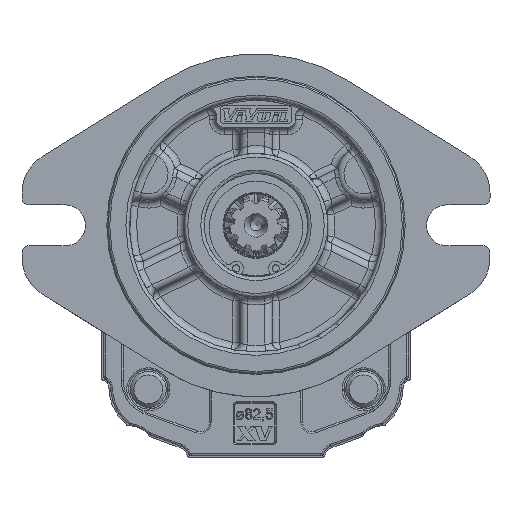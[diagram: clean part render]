
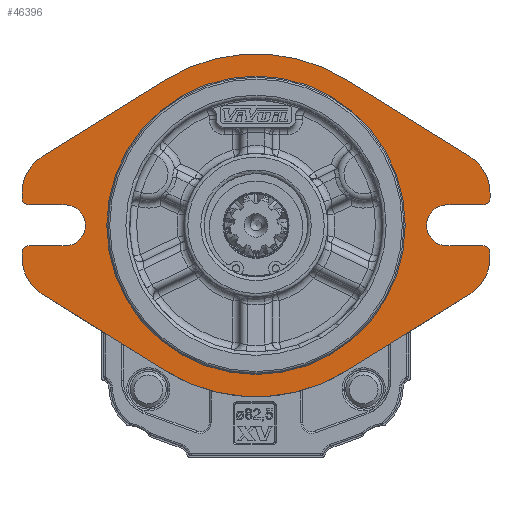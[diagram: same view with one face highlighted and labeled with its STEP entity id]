
A CAD part, front view. The second image highlights one B-rep face of the part: STEP entity #46396.
In plain terms, the highlighted planar face has unit normal (0, -1, 0).
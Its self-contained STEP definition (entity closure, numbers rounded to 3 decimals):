
#2736=LINE('',#65240,#4758);
#2740=LINE('',#65252,#4762);
#2741=LINE('',#65254,#4763);
#2748=LINE('',#65273,#4770);
#2749=LINE('',#65275,#4771);
#2756=LINE('',#65304,#4778);
#2757=LINE('',#65309,#4779);
#2758=LINE('',#65313,#4780);
#2759=LINE('',#65316,#4781);
#2760=LINE('',#65320,#4782);
#2761=LINE('',#65324,#4783);
#2762=LINE('',#65328,#4784);
#4758=VECTOR('',#53574,1000.);
#4762=VECTOR('',#53586,1000.);
#4763=VECTOR('',#53589,1000.);
#4770=VECTOR('',#53604,1000.);
#4771=VECTOR('',#53607,1000.);
#4778=VECTOR('',#53636,1000.);
#4779=VECTOR('',#53639,1000.);
#4780=VECTOR('',#53642,1000.);
#4781=VECTOR('',#53647,1000.);
#4782=VECTOR('',#53650,1000.);
#4783=VECTOR('',#53653,1000.);
#4784=VECTOR('',#53656,1000.);
#6328=PLANE('',#48875);
#9938=ORIENTED_EDGE('',*,*,#18859,.T.);
#9939=ORIENTED_EDGE('',*,*,#18860,.F.);
#9940=ORIENTED_EDGE('',*,*,#18861,.T.);
#9941=ORIENTED_EDGE('',*,*,#18862,.F.);
#9942=ORIENTED_EDGE('',*,*,#18863,.F.);
#9943=ORIENTED_EDGE('',*,*,#18864,.F.);
#9944=ORIENTED_EDGE('',*,*,#18780,.F.);
#9945=ORIENTED_EDGE('',*,*,#18829,.F.);
#9946=ORIENTED_EDGE('',*,*,#18832,.F.);
#9947=ORIENTED_EDGE('',*,*,#18835,.F.);
#9948=ORIENTED_EDGE('',*,*,#18865,.T.);
#9949=ORIENTED_EDGE('',*,*,#18836,.F.);
#9950=ORIENTED_EDGE('',*,*,#18842,.F.);
#9951=ORIENTED_EDGE('',*,*,#18845,.F.);
#9952=ORIENTED_EDGE('',*,*,#18866,.T.);
#9953=ORIENTED_EDGE('',*,*,#18846,.F.);
#9954=ORIENTED_EDGE('',*,*,#18858,.F.);
#9955=ORIENTED_EDGE('',*,*,#18867,.F.);
#9956=ORIENTED_EDGE('',*,*,#18868,.F.);
#9957=ORIENTED_EDGE('',*,*,#18869,.F.);
#9958=ORIENTED_EDGE('',*,*,#18870,.F.);
#9959=ORIENTED_EDGE('',*,*,#18871,.F.);
#9960=ORIENTED_EDGE('',*,*,#18872,.T.);
#9961=ORIENTED_EDGE('',*,*,#18873,.F.);
#9962=ORIENTED_EDGE('',*,*,#18874,.F.);
#18780=EDGE_CURVE('',#23387,#23388,#26053,.T.);
#18829=EDGE_CURVE('',#23430,#23387,#2736,.T.);
#18832=EDGE_CURVE('',#23432,#23430,#26081,.T.);
#18835=EDGE_CURVE('',#23434,#23432,#2740,.T.);
#18836=EDGE_CURVE('',#23435,#23436,#2741,.T.);
#18842=EDGE_CURVE('',#23440,#23435,#26083,.T.);
#18845=EDGE_CURVE('',#23442,#23440,#2748,.T.);
#18846=EDGE_CURVE('',#23443,#23444,#2749,.T.);
#18858=EDGE_CURVE('',#23452,#23443,#26089,.T.);
#18859=EDGE_CURVE('',#23453,#23453,#26090,.T.);
#18860=EDGE_CURVE('',#23454,#23455,#2756,.T.);
#18861=EDGE_CURVE('',#23454,#23456,#26091,.F.);
#18862=EDGE_CURVE('',#23457,#23456,#2757,.T.);
#18863=EDGE_CURVE('',#23458,#23457,#26092,.T.);
#18864=EDGE_CURVE('',#23388,#23458,#2758,.T.);
#18865=EDGE_CURVE('',#23434,#23436,#26093,.F.);
#18866=EDGE_CURVE('',#23442,#23444,#26094,.F.);
#18867=EDGE_CURVE('',#23459,#23452,#2759,.T.);
#18868=EDGE_CURVE('',#23460,#23459,#26095,.T.);
#18869=EDGE_CURVE('',#23461,#23460,#2760,.T.);
#18870=EDGE_CURVE('',#23462,#23461,#26096,.T.);
#18871=EDGE_CURVE('',#23463,#23462,#2761,.T.);
#18872=EDGE_CURVE('',#23463,#23464,#26097,.F.);
#18873=EDGE_CURVE('',#23465,#23464,#2762,.T.);
#18874=EDGE_CURVE('',#23455,#23465,#26098,.T.);
#23387=VERTEX_POINT('',#65140);
#23388=VERTEX_POINT('',#65142);
#23430=VERTEX_POINT('',#65239);
#23432=VERTEX_POINT('',#65245);
#23434=VERTEX_POINT('',#65251);
#23435=VERTEX_POINT('',#65255);
#23436=VERTEX_POINT('',#65256);
#23440=VERTEX_POINT('',#65266);
#23442=VERTEX_POINT('',#65272);
#23443=VERTEX_POINT('',#65276);
#23444=VERTEX_POINT('',#65277);
#23452=VERTEX_POINT('',#65299);
#23453=VERTEX_POINT('',#65303);
#23454=VERTEX_POINT('',#65305);
#23455=VERTEX_POINT('',#65306);
#23456=VERTEX_POINT('',#65308);
#23457=VERTEX_POINT('',#65310);
#23458=VERTEX_POINT('',#65312);
#23459=VERTEX_POINT('',#65317);
#23460=VERTEX_POINT('',#65319);
#23461=VERTEX_POINT('',#65321);
#23462=VERTEX_POINT('',#65323);
#23463=VERTEX_POINT('',#65325);
#23464=VERTEX_POINT('',#65327);
#23465=VERTEX_POINT('',#65329);
#26053=CIRCLE('',#48824,47.75);
#26081=CIRCLE('',#48858,12.);
#26083=CIRCLE('',#48863,5.7);
#26089=CIRCLE('',#48874,12.);
#26090=CIRCLE('',#48876,40.982);
#26091=CIRCLE('',#48877,2.);
#26092=CIRCLE('',#48878,12.);
#26093=CIRCLE('',#48879,2.);
#26094=CIRCLE('',#48880,2.);
#26095=CIRCLE('',#48881,47.75);
#26096=CIRCLE('',#48882,12.);
#26097=CIRCLE('',#48883,2.);
#26098=CIRCLE('',#48884,5.7);
#27801=EDGE_LOOP('',(#9938));
#27802=EDGE_LOOP('',(#9939,#9940,#9941,#9942,#9943,#9944,#9945,#9946,#9947,
#9948,#9949,#9950,#9951,#9952,#9953,#9954,#9955,#9956,#9957,#9958,#9959,
#9960,#9961,#9962));
#30095=FACE_BOUND('',#27801,.T.);
#30096=FACE_BOUND('',#27802,.T.);
#46396=ADVANCED_FACE('',(#30095,#30096),#6328,.F.);
#48824=AXIS2_PLACEMENT_3D('',#65141,#53490,#53491);
#48858=AXIS2_PLACEMENT_3D('',#65246,#53580,#53581);
#48863=AXIS2_PLACEMENT_3D('',#65267,#53598,#53599);
#48874=AXIS2_PLACEMENT_3D('',#65300,#53630,#53631);
#48875=AXIS2_PLACEMENT_3D('',#65301,#53632,#53633);
#48876=AXIS2_PLACEMENT_3D('',#65302,#53634,#53635);
#48877=AXIS2_PLACEMENT_3D('',#65307,#53637,#53638);
#48878=AXIS2_PLACEMENT_3D('',#65311,#53640,#53641);
#48879=AXIS2_PLACEMENT_3D('',#65314,#53643,#53644);
#48880=AXIS2_PLACEMENT_3D('',#65315,#53645,#53646);
#48881=AXIS2_PLACEMENT_3D('',#65318,#53648,#53649);
#48882=AXIS2_PLACEMENT_3D('',#65322,#53651,#53652);
#48883=AXIS2_PLACEMENT_3D('',#65326,#53654,#53655);
#48884=AXIS2_PLACEMENT_3D('',#65330,#53657,#53658);
#53490=DIRECTION('',(0.,1.,0.));
#53491=DIRECTION('',(-1.,0.,0.));
#53574=DIRECTION('',(-0.849,0.,-0.528));
#53580=DIRECTION('',(0.,1.,0.));
#53581=DIRECTION('',(-1.,0.,0.));
#53586=DIRECTION('',(0.,0.,-1.));
#53589=DIRECTION('',(1.,0.,0.));
#53598=DIRECTION('',(0.,-1.,0.));
#53599=DIRECTION('',(1.,0.,0.));
#53604=DIRECTION('',(-1.,0.,0.));
#53607=DIRECTION('',(0.,0.,-1.));
#53630=DIRECTION('',(0.,1.,0.));
#53631=DIRECTION('',(-1.,0.,0.));
#53632=DIRECTION('',(0.,1.,0.));
#53633=DIRECTION('',(0.,0.,-1.));
#53634=DIRECTION('',(0.,1.,0.));
#53635=DIRECTION('',(-1.,0.,0.));
#53636=DIRECTION('',(1.,0.,0.));
#53637=DIRECTION('',(0.,1.,0.));
#53638=DIRECTION('',(0.,0.,-1.));
#53639=DIRECTION('',(0.,0.,1.));
#53640=DIRECTION('',(0.,1.,0.));
#53641=DIRECTION('',(1.,0.,0.));
#53642=DIRECTION('',(-0.849,0.,0.528));
#53643=DIRECTION('',(0.,1.,0.));
#53644=DIRECTION('',(0.,0.,-1.));
#53645=DIRECTION('',(0.,1.,0.));
#53646=DIRECTION('',(0.,0.,-1.));
#53647=DIRECTION('',(0.849,0.,-0.528));
#53648=DIRECTION('',(0.,1.,0.));
#53649=DIRECTION('',(-1.,0.,0.));
#53650=DIRECTION('',(0.849,0.,0.528));
#53651=DIRECTION('',(0.,1.,0.));
#53652=DIRECTION('',(1.,0.,0.));
#53653=DIRECTION('',(0.,0.,1.));
#53654=DIRECTION('',(0.,1.,0.));
#53655=DIRECTION('',(0.,0.,-1.));
#53656=DIRECTION('',(-1.,0.,0.));
#53657=DIRECTION('',(0.,-1.,0.));
#53658=DIRECTION('',(-1.,0.,0.));
#65140=CARTESIAN_POINT('',(25.235,-19.,-24.837));
#65141=CARTESIAN_POINT('',(0.,-19.,15.7));
#65142=CARTESIAN_POINT('',(-25.235,-19.,-24.837));
#65239=CARTESIAN_POINT('',(59.532,-19.,-3.487));
#65240=CARTESIAN_POINT('',(59.532,-19.,-3.487));
#65245=CARTESIAN_POINT('',(65.19,-19.,6.7));
#65246=CARTESIAN_POINT('',(53.19,-19.,6.7));
#65251=CARTESIAN_POINT('',(65.19,-19.,8.));
#65252=CARTESIAN_POINT('',(65.19,-19.,6.7));
#65254=CARTESIAN_POINT('',(53.19,-19.,10.));
#65255=CARTESIAN_POINT('',(53.19,-19.,10.));
#65256=CARTESIAN_POINT('',(63.19,-19.,10.));
#65266=CARTESIAN_POINT('',(53.19,-19.,21.4));
#65267=CARTESIAN_POINT('',(53.19,-19.,15.7));
#65272=CARTESIAN_POINT('',(63.19,-19.,21.4));
#65273=CARTESIAN_POINT('',(53.19,-19.,21.4));
#65275=CARTESIAN_POINT('',(65.19,-19.,24.7));
#65276=CARTESIAN_POINT('',(65.19,-19.,24.7));
#65277=CARTESIAN_POINT('',(65.19,-19.,23.4));
#65299=CARTESIAN_POINT('',(59.532,-19.,34.887));
#65300=CARTESIAN_POINT('',(53.19,-19.,24.7));
#65301=CARTESIAN_POINT('',(0.,-19.,15.7));
#65302=CARTESIAN_POINT('',(0.,-19.,15.7));
#65303=CARTESIAN_POINT('',(-40.982,-19.,15.7));
#65304=CARTESIAN_POINT('',(-53.19,-19.,10.));
#65305=CARTESIAN_POINT('',(-63.19,-19.,10.));
#65306=CARTESIAN_POINT('',(-53.19,-19.,10.));
#65307=CARTESIAN_POINT('',(-63.19,-19.,8.));
#65308=CARTESIAN_POINT('',(-65.19,-19.,8.));
#65309=CARTESIAN_POINT('',(-65.19,-19.,6.7));
#65310=CARTESIAN_POINT('',(-65.19,-19.,6.7));
#65311=CARTESIAN_POINT('',(-53.19,-19.,6.7));
#65312=CARTESIAN_POINT('',(-59.532,-19.,-3.487));
#65313=CARTESIAN_POINT('',(-59.532,-19.,-3.487));
#65314=CARTESIAN_POINT('',(63.19,-19.,8.));
#65315=CARTESIAN_POINT('',(63.19,-19.,23.4));
#65316=CARTESIAN_POINT('',(25.235,-19.,56.237));
#65317=CARTESIAN_POINT('',(25.235,-19.,56.237));
#65318=CARTESIAN_POINT('',(0.,-19.,15.7));
#65319=CARTESIAN_POINT('',(-25.235,-19.,56.237));
#65320=CARTESIAN_POINT('',(-25.235,-19.,56.237));
#65321=CARTESIAN_POINT('',(-59.532,-19.,34.887));
#65322=CARTESIAN_POINT('',(-53.19,-19.,24.7));
#65323=CARTESIAN_POINT('',(-65.19,-19.,24.7));
#65324=CARTESIAN_POINT('',(-65.19,-19.,24.7));
#65325=CARTESIAN_POINT('',(-65.19,-19.,23.4));
#65326=CARTESIAN_POINT('',(-63.19,-19.,23.4));
#65327=CARTESIAN_POINT('',(-63.19,-19.,21.4));
#65328=CARTESIAN_POINT('',(-53.19,-19.,21.4));
#65329=CARTESIAN_POINT('',(-53.19,-19.,21.4));
#65330=CARTESIAN_POINT('',(-53.19,-19.,15.7));
